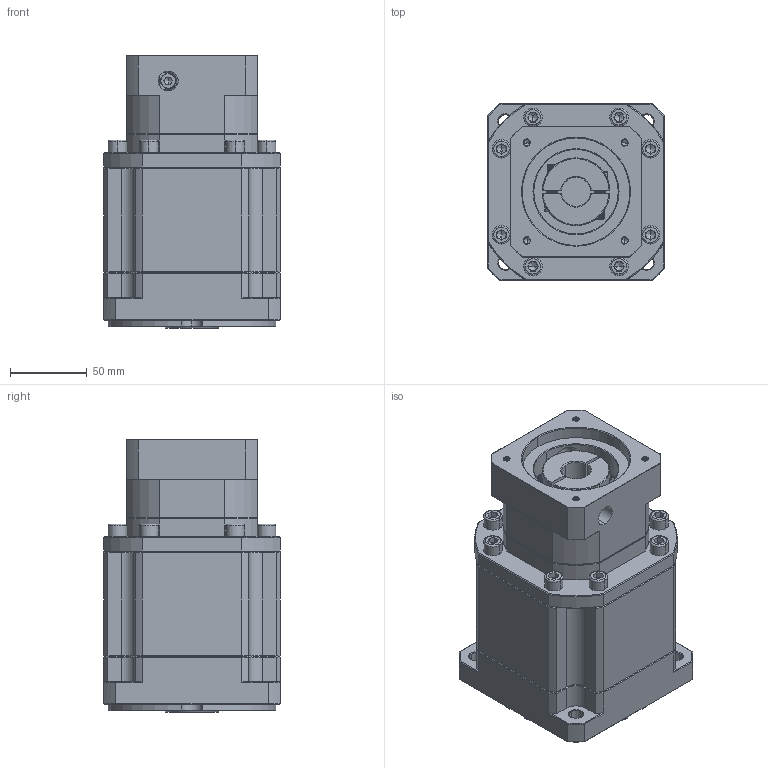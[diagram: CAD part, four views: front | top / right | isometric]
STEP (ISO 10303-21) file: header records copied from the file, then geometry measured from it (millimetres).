
FILE_DESCRIPTION (( 'STEP AP214' ), '1' );
FILE_NAME ('ZB115A-K25-L3-P2-19-70-90-M5.step', '2023-08-26T10:05:38', ( '' ), ( '' ), 'SwSTEP 2.0', 'SolidWorks 2016', '' );
FILE_SCHEMA (( 'AUTOMOTIVE_DESIGN' ));
Length unit declared in the file: millimetre
Products named in the file (1): ZB115A-K25-L3-P2-19-70-90-M5
Bounding box: 115 x 115 x 177.5 mm (x, y, z)
Volume: 1644298.7 mm3; surface area: 141842.3 mm2
Topology: 5 solids, 5 shells, 2328 faces, 6146 edges, 3917 vertices
Faces by surface type: plane 1173, bspline 433, cylinder 387, cone 335
Entity records: 122210 total; most frequent: CARTESIAN_POINT 42495, ORIENTED_EDGE 12220, DIRECTION 9613, EDGE_CURVE 6110, LINE 3971, VECTOR 3971, VERTEX_POINT 3917, AXIS2_PLACEMENT_3D 2821
